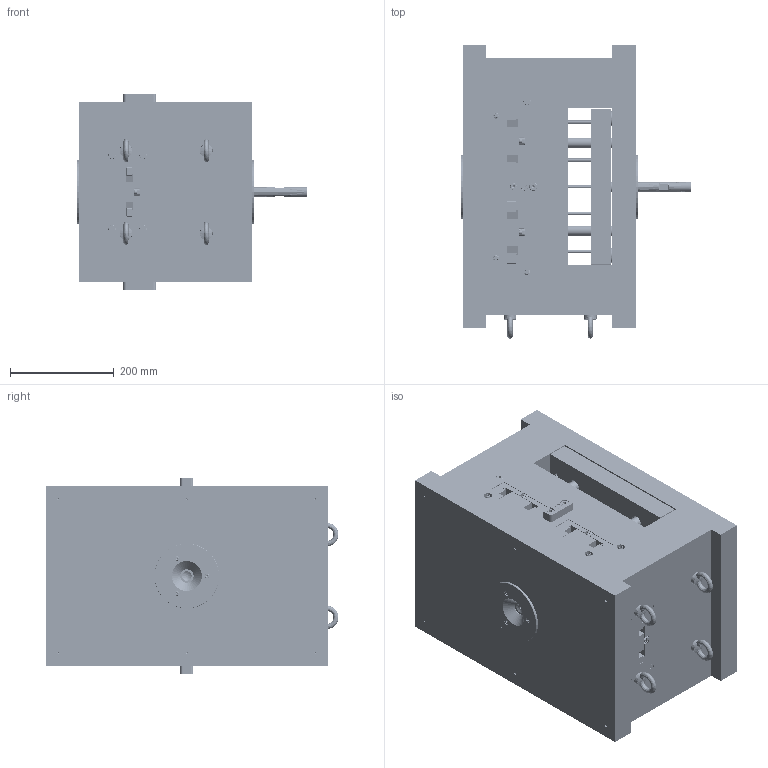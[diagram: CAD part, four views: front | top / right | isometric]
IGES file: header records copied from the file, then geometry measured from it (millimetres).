
Start section: START RECORD GO HERE.
Global section: file name: FORMA.igs; native system: DASSAULT SYSTEMES CATIA Version 5-6 Release 2020 - www.3ds.com; preprocessor: V5-6R2020_5.30.0.0.10-10-2019.20.00; author: ondra; organization: BUK; date: 20250512.100959; units: millimetre
Bounding box: 445 x 566 x 378.2 mm (x, y, z)
Surface area: 5788780.9 mm2 (no closed solid volume)
Topology: 0 solids, 0 shells, 10053 faces, 47530 edges, 47006 vertices
Faces by surface type: revolution 5425, extrusion 3355, plane 733, bspline 540
